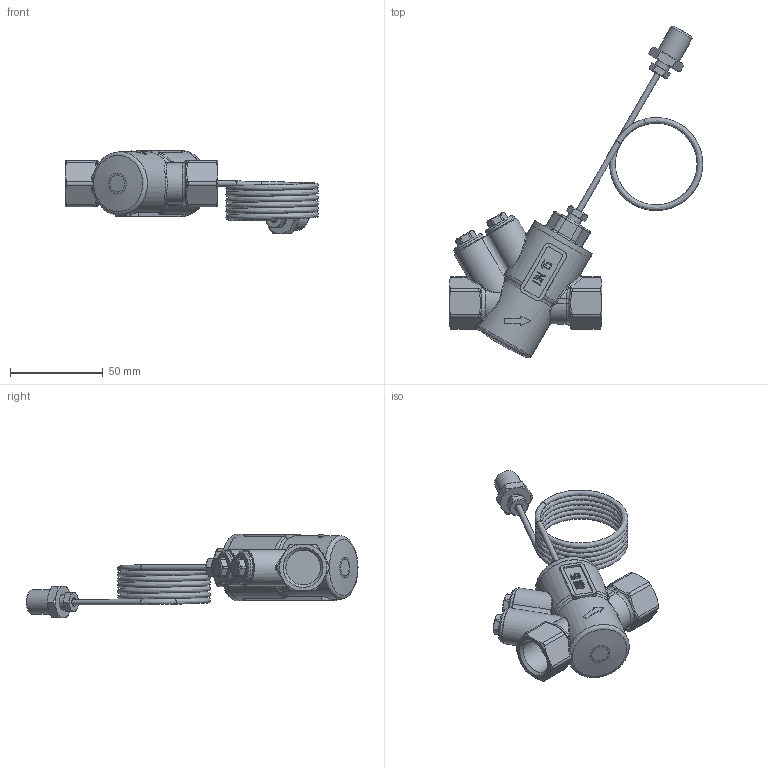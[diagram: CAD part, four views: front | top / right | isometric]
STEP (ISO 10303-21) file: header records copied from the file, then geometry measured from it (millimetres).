
FILE_DESCRIPTION(('STEP AP203'), '1');
FILE_NAME('VT.044.G.0420', '', ('UNSPECIFIED'), ('UNSPECIFIED'), 'C3D Converter', 'C3D Toolkit', '');
FILE_SCHEMA(('CONFIG_CONTROL_DESIGN'));
Length unit declared in the file: millimetre
Products named in the file (1): ВР.493612.020.000 СБ
Bounding box: 136.38 x 178.77 x 45.1 mm (x, y, z)
Volume: 106587.5 mm3; surface area: 33848.1 mm2
Topology: 1 solids, 5 shells, 507 faces, 1231 edges, 760 vertices
Faces by surface type: plane 151, bspline 108, cylinder 104, cone 66, extrusion 53, torus 25
Full cylindrical faces by diameter (mm): 1.2 x2, 3 x3, 3.1 x1, 3.5 x2, 4.4 x1, 6.647 x1, 8 x2, 13.157 x1, 16.2 x2, 18 x2, 18.632 x2, 35.9 x1, 36 x1
Entity records: 29916 total; most frequent: CARTESIAN_POINT 19689, ORIENTED_EDGE 2364, DIRECTION 1593, EDGE_CURVE 1182, VERTEX_POINT 760, B_SPLINE_CURVE_WITH_KNOTS 586, AXIS2_PLACEMENT_3D 583, EDGE_LOOP 582
